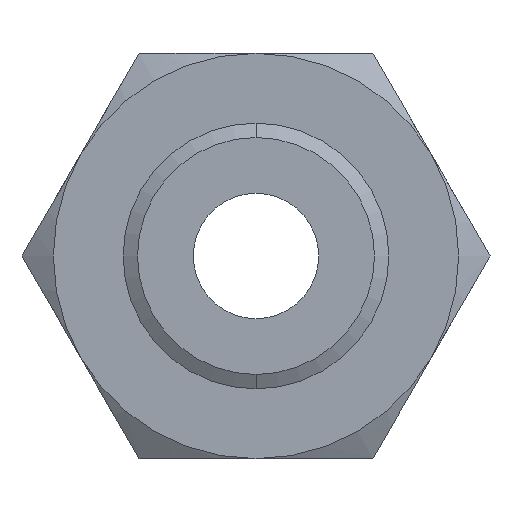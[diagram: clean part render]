
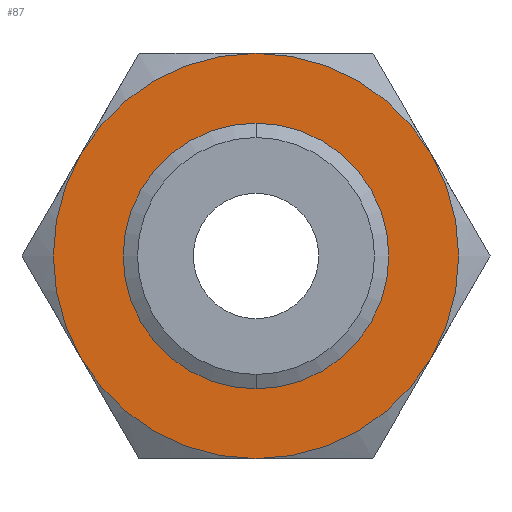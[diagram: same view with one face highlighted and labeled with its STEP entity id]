
A CAD part, front view. The second image highlights one B-rep face of the part: STEP entity #87.
In plain terms, the highlighted planar face has unit normal (0, -1, 0).
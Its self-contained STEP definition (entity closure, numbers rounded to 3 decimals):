
#68 = ORIENTED_EDGE ( 'NONE', *, *, #71, .F. ) ;
#69 = ORIENTED_EDGE ( 'NONE', *, *, #75, .F. ) ;
#70 = VERTEX_POINT ( 'NONE', #385 ) ;
#71 = EDGE_CURVE ( 'NONE', #73, #70, #384, .T. ) ;
#73 = VERTEX_POINT ( 'NONE', #375 ) ;
#75 = EDGE_CURVE ( 'NONE', #70, #77, #374, .T. ) ;
#76 = ORIENTED_EDGE ( 'NONE', *, *, #2424, .F. ) ;
#77 = VERTEX_POINT ( 'NONE', #369 ) ;
#78 = VERTEX_POINT ( 'NONE', #368 ) ;
#79 = EDGE_LOOP ( 'NONE', ( #76, #88 ) ) ;
#80 = EDGE_LOOP ( 'NONE', ( #82, #69, #68, #3157, #3146, #3165 ) ) ;
#81 = EDGE_CURVE ( 'NONE', #77, #78, #366, .T. ) ;
#82 = ORIENTED_EDGE ( 'NONE', *, *, #81, .F. ) ;
#87 = ADVANCED_FACE ( 'NONE', ( #414, #413 ), #412, .F. ) ;
#88 = ORIENTED_EDGE ( 'NONE', *, *, #89, .F. ) ;
#89 = EDGE_CURVE ( 'NONE', #2427, #2429, #409, .T. ) ;
#362 = DIRECTION ( 'NONE',  ( 0., 0., 1. ) ) ;
#363 = DIRECTION ( 'NONE',  ( 0., 1., 0. ) ) ;
#364 = CARTESIAN_POINT ( 'NONE',  ( 0., 0., 0. ) ) ;
#365 = AXIS2_PLACEMENT_3D ( 'NONE', #364, #363, #362 ) ;
#366 = CIRCLE ( 'NONE', #365, 77.5 ) ;
#368 = CARTESIAN_POINT ( 'NONE',  ( 67.117, 0., 38.75 ) ) ;
#369 = CARTESIAN_POINT ( 'NONE',  ( 0., 0., 77.5 ) ) ;
#370 = DIRECTION ( 'NONE',  ( 0., 0., 1. ) ) ;
#371 = DIRECTION ( 'NONE',  ( 0., 1., 0. ) ) ;
#372 = CARTESIAN_POINT ( 'NONE',  ( 0., 0., 0. ) ) ;
#373 = AXIS2_PLACEMENT_3D ( 'NONE', #372, #371, #370 ) ;
#374 = CIRCLE ( 'NONE', #373, 77.5 ) ;
#375 = CARTESIAN_POINT ( 'NONE',  ( -67.117, 0., -38.75 ) ) ;
#380 = DIRECTION ( 'NONE',  ( 0., 0., 1. ) ) ;
#381 = DIRECTION ( 'NONE',  ( 0., 1., 0. ) ) ;
#382 = CARTESIAN_POINT ( 'NONE',  ( 0., 0., 0. ) ) ;
#383 = AXIS2_PLACEMENT_3D ( 'NONE', #382, #381, #380 ) ;
#384 = CIRCLE ( 'NONE', #383, 77.5 ) ;
#385 = CARTESIAN_POINT ( 'NONE',  ( -67.117, 0., 38.75 ) ) ;
#403 = DIRECTION ( 'NONE',  ( 0., 0., -1. ) ) ;
#404 = DIRECTION ( 'NONE',  ( 0., -1., 0. ) ) ;
#405 = CARTESIAN_POINT ( 'NONE',  ( 0., 0., 0. ) ) ;
#406 = AXIS2_PLACEMENT_3D ( 'NONE', #405, #404, #403 ) ;
#407 = DIRECTION ( 'NONE',  ( 0., 0., 1. ) ) ;
#408 = DIRECTION ( 'NONE',  ( 0., 1., 0. ) ) ;
#409 = CIRCLE ( 'NONE', #406, 45.301 ) ;
#410 = CARTESIAN_POINT ( 'NONE',  ( 44.745, 0., -77.5 ) ) ;
#411 = AXIS2_PLACEMENT_3D ( 'NONE', #410, #408, #407 ) ;
#412 = PLANE ( 'NONE',  #411 ) ;
#413 = FACE_BOUND ( 'NONE', #79, .T. ) ;
#414 = FACE_OUTER_BOUND ( 'NONE', #80, .T. ) ;
#797 = CARTESIAN_POINT ( 'NONE',  ( 0., 0., -45.301 ) ) ;
#801 = CARTESIAN_POINT ( 'NONE',  ( 0., 0., 45.301 ) ) ;
#805 = DIRECTION ( 'NONE',  ( 0., 0., -1. ) ) ;
#806 = DIRECTION ( 'NONE',  ( 0., -1., 0. ) ) ;
#807 = CARTESIAN_POINT ( 'NONE',  ( 0., 0., 0. ) ) ;
#808 = AXIS2_PLACEMENT_3D ( 'NONE', #807, #806, #805 ) ;
#813 = CIRCLE ( 'NONE', #808, 45.301 ) ;
#2234 = DIRECTION ( 'NONE',  ( 0., 0., 1. ) ) ;
#2235 = DIRECTION ( 'NONE',  ( 0., 1., 0. ) ) ;
#2236 = CARTESIAN_POINT ( 'NONE',  ( 0., 0., 0. ) ) ;
#2237 = AXIS2_PLACEMENT_3D ( 'NONE', #2236, #2235, #2234 ) ;
#2238 = CIRCLE ( 'NONE', #2237, 77.5 ) ;
#2243 = CARTESIAN_POINT ( 'NONE',  ( 0., 0., -77.5 ) ) ;
#2269 = DIRECTION ( 'NONE',  ( 0., 0., 1. ) ) ;
#2270 = DIRECTION ( 'NONE',  ( 0., 1., 0. ) ) ;
#2271 = CARTESIAN_POINT ( 'NONE',  ( 0., 0., 0. ) ) ;
#2272 = AXIS2_PLACEMENT_3D ( 'NONE', #2271, #2270, #2269 ) ;
#2273 = CIRCLE ( 'NONE', #2272, 77.5 ) ;
#2274 = CARTESIAN_POINT ( 'NONE',  ( 67.117, 0., -38.75 ) ) ;
#2277 = DIRECTION ( 'NONE',  ( 0., 0., 1. ) ) ;
#2279 = DIRECTION ( 'NONE',  ( 0., 1., 0. ) ) ;
#2280 = CARTESIAN_POINT ( 'NONE',  ( 0., 0., 0. ) ) ;
#2281 = AXIS2_PLACEMENT_3D ( 'NONE', #2280, #2279, #2277 ) ;
#2282 = CIRCLE ( 'NONE', #2281, 77.5 ) ;
#2424 = EDGE_CURVE ( 'NONE', #2429, #2427, #813, .T. ) ;
#2427 = VERTEX_POINT ( 'NONE', #801 ) ;
#2429 = VERTEX_POINT ( 'NONE', #797 ) ;
#3146 = ORIENTED_EDGE ( 'NONE', *, *, #3148, .F. ) ;
#3147 = VERTEX_POINT ( 'NONE', #2243 ) ;
#3148 = EDGE_CURVE ( 'NONE', #3164, #3147, #2238, .T. ) ;
#3157 = ORIENTED_EDGE ( 'NONE', *, *, #3158, .F. ) ;
#3158 = EDGE_CURVE ( 'NONE', #3147, #73, #2282, .T. ) ;
#3163 = EDGE_CURVE ( 'NONE', #78, #3164, #2273, .T. ) ;
#3164 = VERTEX_POINT ( 'NONE', #2274 ) ;
#3165 = ORIENTED_EDGE ( 'NONE', *, *, #3163, .F. ) ;
